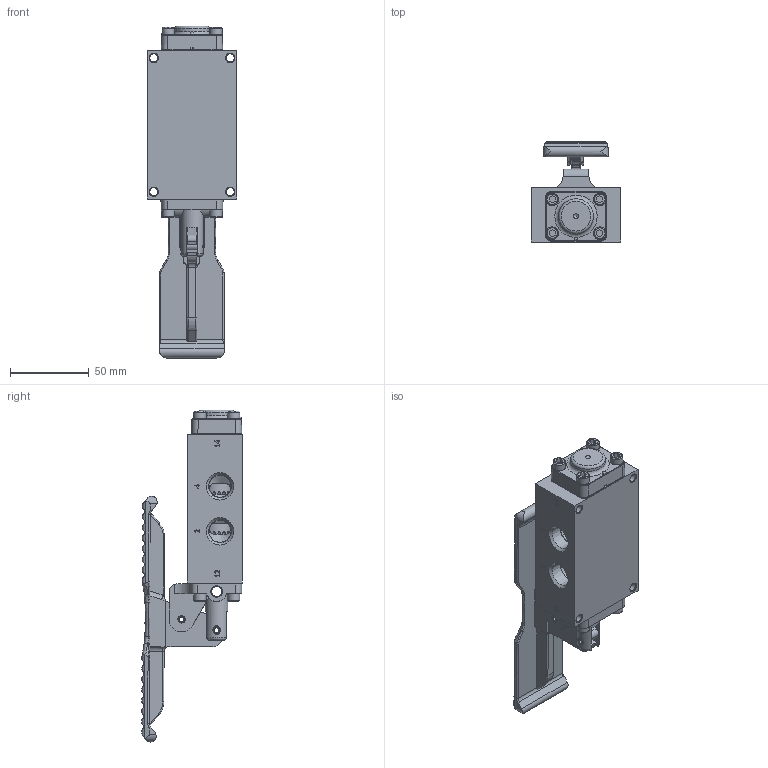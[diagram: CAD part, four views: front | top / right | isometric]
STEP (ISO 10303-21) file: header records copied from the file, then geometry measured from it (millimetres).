
FILE_DESCRIPTION(/* description */ (''),/* implementation_level */ '2;1');
FILE_NAME(/* name */ 'D:\Website Files\stp\Valves\Pedal\TE\ZTE3LO.stp',/* time_stamp */ '2015-05-03T11:59:52-04:00',/* author */ ('RMcKenna'),/* organization */ (''),/* preprocessor_version */ 'ST-DEVELOPER v15.6',/* originating_system */ 'Autodesk Inventor 2015',/* authorisation */ '');
FILE_SCHEMA (('AUTOMOTIVE_DESIGN { 1 0 10303 214 3 1 1 }'));
Length unit declared in the file: centimetre
Products named in the file (1): Part41
Bounding box: 57.15 x 64.05 x 210.87 mm (x, y, z)
Volume: 223315.9 mm3; surface area: 75476.6 mm2
Topology: 1 solids, 21 shells, 1314 faces, 3295 edges, 2099 vertices
Faces by surface type: plane 577, cylinder 277, cone 254, torus 109, bspline 96, sphere 1
Full cylindrical faces by diameter (mm): 2.381 x1, 3.175 x3, 3.683 x8, 4.75 x2, 4.763 x2, 4.826 x8, 4.978 x4, 5.156 x12, 6.528 x3, 7.938 x8, 8.153 x1, 9.922 x1, 11.113 x1, 11.303 x2, 13.894 x3, 14.275 x1, 14.986 x1, 18.618 x1, 18.745 x12, 19.812 x2, 23.825 x6
Entity records: 43665 total; most frequent: CARTESIAN_POINT 12919, ORIENTED_EDGE 6056, DIRECTION 5762, EDGE_CURVE 3027, AXIS2_PLACEMENT_3D 2145, VERTEX_POINT 2028, EDGE_LOOP 1650, LINE 1472
